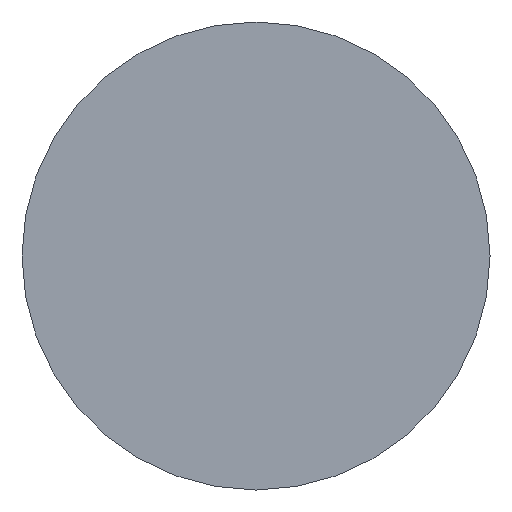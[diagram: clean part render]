
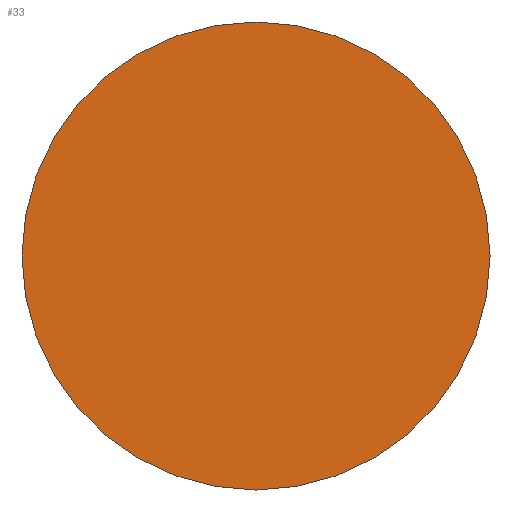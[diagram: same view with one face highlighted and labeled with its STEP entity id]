
A CAD part, front view. The second image highlights one B-rep face of the part: STEP entity #33.
In plain terms, the highlighted planar face has unit normal (0, -1, 0).
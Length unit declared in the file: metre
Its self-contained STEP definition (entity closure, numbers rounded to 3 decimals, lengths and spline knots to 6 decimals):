
#13=ORIENTED_EDGE('',*,*,#17,.F.);
#17=EDGE_CURVE('',#19,#19,#21,.T.);
#19=VERTEX_POINT('',#69);
#21=CIRCLE('',#50,0.0011);
#23=EDGE_LOOP('',(#13));
#27=FACE_BOUND('',#23,.T.);
#31=PLANE('',#49);
#33=ADVANCED_FACE('',(#27),#31,.F.);
#49=AXIS2_PLACEMENT_3D('',#67,#56,#57);
#50=AXIS2_PLACEMENT_3D('',#68,#58,#59);
#56=DIRECTION('',(0.,1.,0.));
#57=DIRECTION('',(1.,0.,0.));
#58=DIRECTION('',(0.,1.,0.));
#59=DIRECTION('',(-1.,0.,0.));
#67=CARTESIAN_POINT('',(0.,0.00795,0.));
#68=CARTESIAN_POINT('',(0.,0.00795,0.));
#69=CARTESIAN_POINT('',(-0.0011,0.00795,0.));
